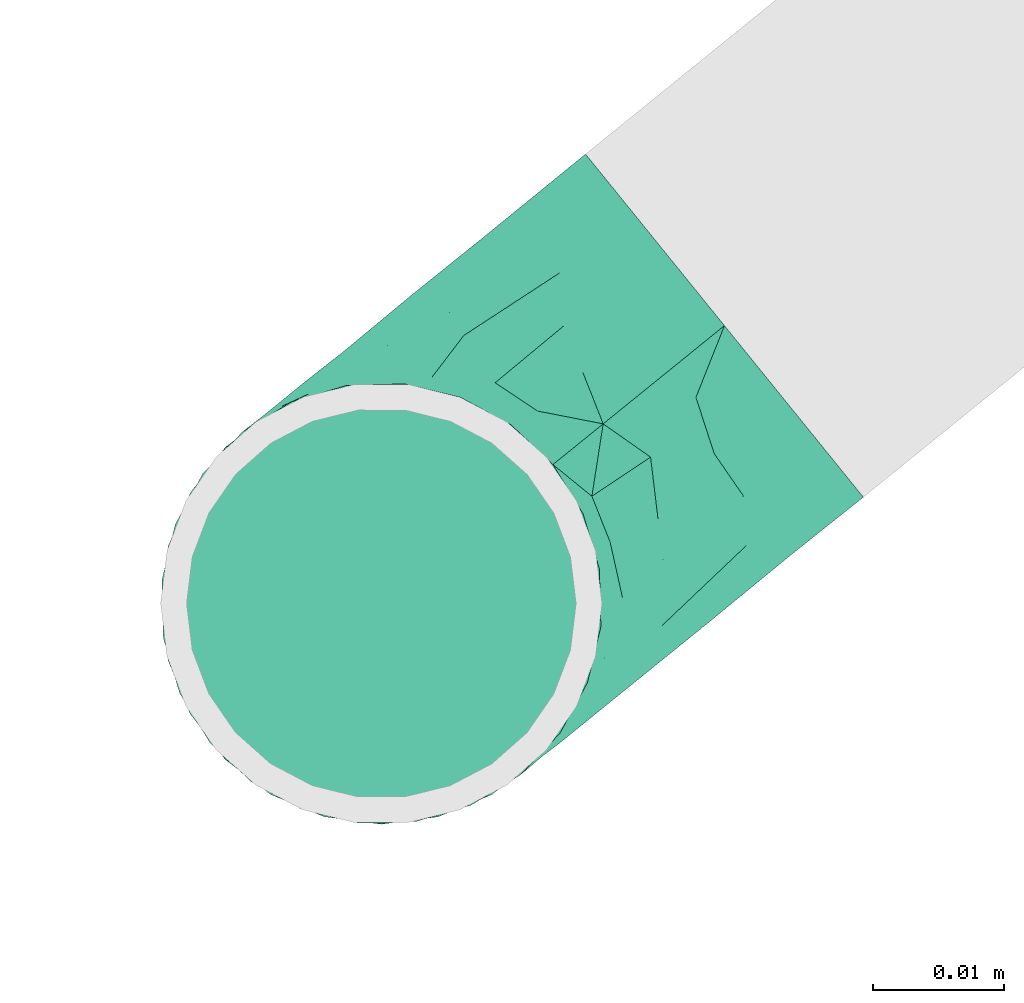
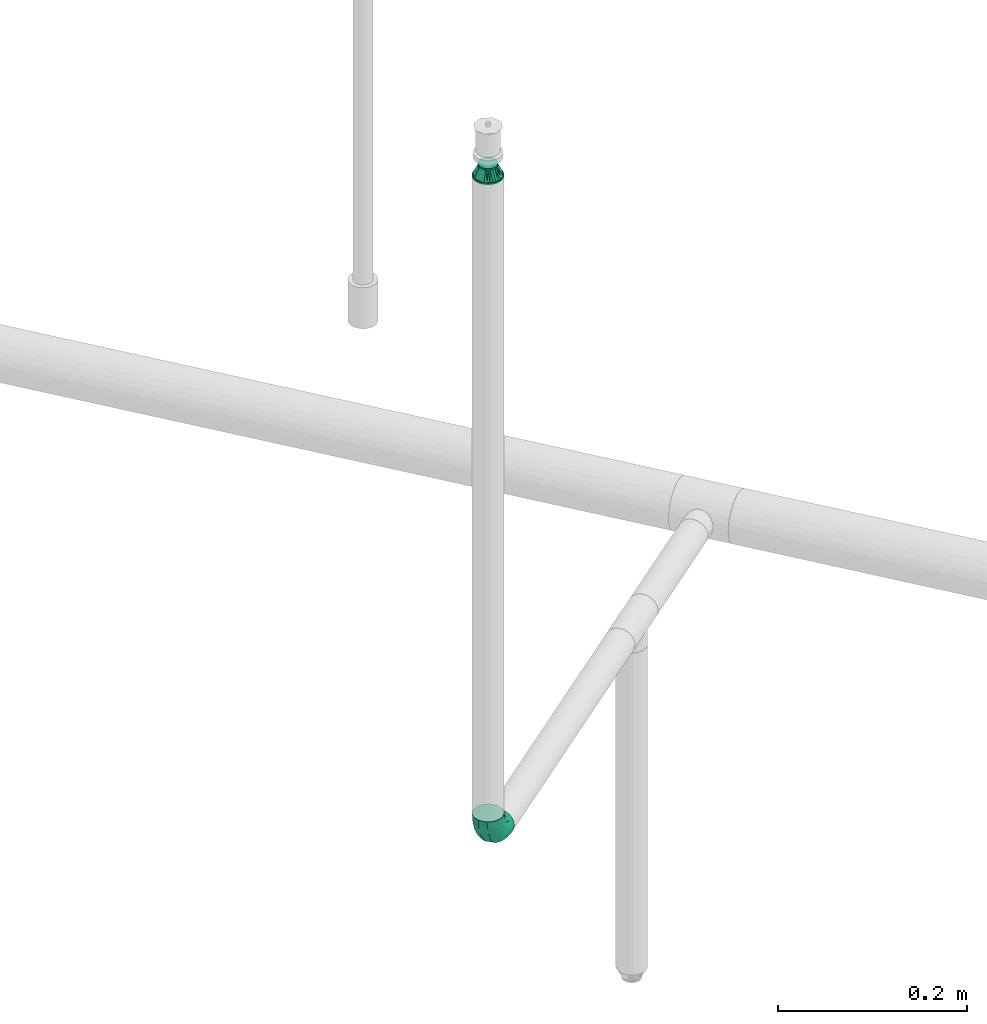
# One storey, part 65 of 94: 2 flow fittings.
"""IFC2X3 building model written with IfcOpenShell, lengths in millimetres."""

from ifc_helpers import new_model, entity, si_unit, converted_unit, derived_unit, direction, frame, origin_with_axes, place, context, subcontext, project, spatial, open_shell, surface_model, source, transform, mapped, type_object, element, save


model = new_model("IFC2X3")

# Units and contexts
model_context = context("Model", 3, precision=0.01, world=frame((0.0, 4.29681676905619e-09, 0.0)), true_north=direction((4.01073788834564e-13, 1.0)))
plan_context = context("Plan", 3, precision=0.01, world=frame((0.0, 4.29681676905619e-09, 0.0)), true_north=direction((4.01073788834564e-13, 1.0)))
body_context = subcontext(model_context, "Body", "Model", "MODEL_VIEW")
ifc_project = project(units=[converted_unit("PLANEANGLEUNIT", "DEGREE", entity("IfcPositiveLengthMeasure", 0.0174532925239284), si_unit("PLANEANGLEUNIT", "RADIAN"), dimensions=[0, 0, 0, 0, 0, 0, 0]), si_unit("AREAUNIT", "SQUARE_METRE"), si_unit("LENGTHUNIT", "METRE", prefix="MILLI"), si_unit("MASSUNIT", "GRAM", prefix="KILO"), si_unit("POWERUNIT", "WATT"), si_unit("PRESSUREUNIT", "PASCAL", prefix="KILO"), si_unit("FORCEUNIT", "NEWTON", prefix="KILO"), si_unit("ELECTRICVOLTAGEUNIT", "VOLT"), si_unit("ELECTRICCURRENTUNIT", "AMPERE"), si_unit("THERMODYNAMICTEMPERATUREUNIT", "DEGREE_CELSIUS"), si_unit("TIMEUNIT", "SECOND"), si_unit("VOLUMEUNIT", "CUBIC_METRE"), derived_unit("LINEARVELOCITYUNIT", [(si_unit("LENGTHUNIT", "METRE"), 1), (si_unit("TIMEUNIT", "SECOND"), -1)]), derived_unit("VOLUMETRICFLOWRATEUNIT", [(si_unit("VOLUMEUNIT", "CUBIC_METRE"), 1), (si_unit("TIMEUNIT", "SECOND"), -1)]), derived_unit("THERMALTRANSMITTANCEUNIT", [(si_unit("POWERUNIT", "WATT"), 1), (si_unit("THERMODYNAMICTEMPERATUREUNIT", "KELVIN"), -1), (si_unit("AREAUNIT", "SQUARE_METRE"), -1)]), derived_unit("SOUNDPRESSUREUNIT", [(si_unit("PRESSUREUNIT", "PASCAL"), 1)])], contexts=[model_context, plan_context])

# Site, building, storey
site_placement = place(None, frame((0.0, -4.29681676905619e-09, 0.0), z_axis=(0.0, 0.0, 1.0), x_axis=(1.0, 0.0, 0.0)))
site = spatial("IfcSite", under=ifc_project, at=site_placement, CompositionType="ELEMENT")
building_placement = place(site_placement, frame((0.0, 4.29681676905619e-09, 0.0), z_axis=(0.0, 0.0, 1.0), x_axis=(1.0, 0.0, 0.0)))
building = spatial("IfcBuilding", under=site, at=building_placement, Name="mc-building", CompositionType="ELEMENT")
storey_placement = place(building_placement, frame((0.0, 0.0, 210900.0), z_axis=(0.0, 0.0, 1.0), x_axis=(1.0, 0.0, 0.0)))
storey = spatial("IfcBuildingStorey", under=building, at=storey_placement, Name="Nivå F", CompositionType="ELEMENT", Elevation=210900.0)

# Flow fittings
pipe_fitting_type_1 = type_object("IfcPipeFittingType", Name="magi_pipe_fe_reducer_centric_short_NOR", PredefinedType="TRANSITION")
shared_shape_1 = source(origin_with_axes(), body_context, "Body", "SurfaceModel", [
    surface_model("IfcShellBasedSurfaceModel", [(14.4, 5.35, -9.26647), (14.4, 0.0, -10.7), (14.4, 2.76936, -10.33541), (14.4, 10.33541, -2.76936), (14.4, 7.56604, -7.56604), (14.4, -10.33541, -2.76936), (14.4, 9.26647, -5.35), (14.4, 0.0, 10.7), (14.4, -5.35, -9.26647), (14.4, -2.76936, -10.33541), (14.4, -7.56604, -7.56604), (14.4, -9.26647, -5.35), (14.4, 10.7, 0.0), (14.4, 10.33541, 2.76936), (14.4, 9.26647, 5.35), (14.4, 7.56604, 7.56604), (14.4, 2.76936, 10.33541), (14.4, 5.35, 9.26647), (14.4, -10.33541, 2.76936), (14.4, -7.56604, 7.56604), (14.4, -9.26647, 5.35), (14.4, -10.7, 0.0), (14.4, -2.76936, 10.33541), (14.4, -5.35, 9.26647), (12.4, 2.76936, 10.33541), (12.4, -10.33541, -2.76936), (12.4, 0.0, 10.7), (12.4, 5.35, 9.26647), (12.4, 7.56604, 7.56604), (12.4, 9.26647, 5.35), (12.4, 10.33541, 2.76936), (12.4, -10.33541, 2.76936), (12.4, -2.76936, 10.33541), (12.4, -7.56604, 7.56604), (12.4, -5.35, 9.26647), (12.4, -9.26647, 5.35), (12.4, -10.7, 0.0), (12.4, 10.33541, -2.76936), (12.4, 5.35, -9.26647), (12.4, 9.26647, -5.35), (12.4, 7.56604, -7.56604), (12.4, 2.76936, -10.33541), (12.4, -9.26647, -5.35), (12.4, -5.35, -9.26647), (12.4, -7.56604, -7.56604), (12.4, 0.0, -10.7), (12.4, -2.76936, -10.33541), (12.4, 10.7, 0.0), (-2.0, 11.9501, 11.9501), (-2.0, 0.0, 16.9), (-2.0, 4.37404, 16.32415), (-2.0, 8.45, 14.63583), (-2.0, 14.63583, 8.45), (-2.0, 16.32415, 4.37404), (-2.0, -16.32415, 4.37404), (-2.0, -8.45, 14.63583), (-2.0, -14.63583, 8.45), (-2.0, -11.9501, 11.9501), (-2.0, -4.37404, 16.32415), (-2.0, -16.32415, -4.37404), (-2.0, -16.9, 0.0), (-2.0, -8.45, -14.63583), (-2.0, 16.32415, -4.37404), (-2.0, 11.9501, -11.9501), (-2.0, 14.63583, -8.45), (-2.0, 8.45, -14.63583), (-2.0, 4.37404, -16.32415), (-2.0, 0.0, -16.9), (-2.0, -11.9501, -11.9501), (-2.0, -14.63583, -8.45), (-2.0, -4.37404, -16.32415), (-2.0, 16.9, 0.0), (0.0, 4.37404, -16.32415), (0.0, 8.45, -14.63583), (0.0, 11.9501, -11.9501), (0.0, 0.0, -16.9), (0.0, 16.32415, -4.37404), (0.0, 16.32415, 4.37404), (0.0, 14.63583, -8.45), (0.0, -8.45, -14.63583), (0.0, -4.37404, -16.32415), (0.0, -11.9501, -11.9501), (0.0, -16.32415, -4.37404), (0.0, -14.63583, -8.45), (0.0, -16.32415, 4.37404), (0.0, 16.9, 0.0), (0.0, 14.63583, 8.45), (0.0, 11.9501, 11.9501), (0.0, 4.37404, 16.32415), (0.0, 8.45, 14.63583), (0.0, 0.0, 16.9), (0.0, -14.63583, 8.45), (0.0, -16.9, 0.0), (0.0, -8.45, 14.63583), (0.0, -11.9501, 11.9501), (0.0, -4.37404, 16.32415), (12.4, 9.3625, -2.31662), (0.0, 14.42505, -5.97505), (0.0, 15.66253, -2.98753), (12.4, -6.6875, -6.94985), (0.0, -13.18758, -8.96258), (0.0, 2.98753, -15.66253), (12.4, 0.0, -9.26647), (12.4, 6.6875, -6.94985), (0.0, 8.96258, -13.18758), (12.4, -9.3625, -2.31662), (0.0, -15.66253, -2.98753), (0.0, -14.42505, -5.97505), (0.0, 5.97505, -14.42505), (0.0, -2.98753, -15.66253), (0.0, -8.96258, -13.18758), (0.0, 13.18758, -8.96258), (12.4, 8.025, -4.63324), (12.4, -2.675, -9.26647), (12.4, 2.675, -9.26647), (0.0, -5.97505, -14.42505), (12.4, -8.025, -4.63324), (12.4, -9.3625, 2.31662), (0.0, -14.42505, 5.97505), (0.0, -15.66253, 2.98753), (12.4, 6.6875, 6.94985), (0.0, 13.18758, 8.96258), (0.0, -2.98753, 15.66253), (12.4, 0.0, 9.26647), (12.4, -6.6875, 6.94985), (0.0, -8.96258, 13.18758), (12.4, 9.3625, 2.31662), (0.0, 15.66253, 2.98753), (0.0, 14.42505, 5.97505), (0.0, -5.97505, 14.42505), (0.0, 2.98753, 15.66253), (0.0, 8.96258, 13.18758), (0.0, -13.18758, 8.96258), (12.4, -8.025, 4.63324), (12.4, 2.675, 9.26647), (12.4, -2.675, 9.26647), (0.0, 5.97505, 14.42505), (12.4, 8.025, 4.63324)], [open_shell([[[0, 1, 2]], [[3, 0, 4]], [[5, 0, 3]], [[3, 4, 6]], [[7, 5, 3]], [[1, 8, 9]], [[1, 0, 8]], [[10, 5, 11]], [[5, 10, 8]], [[0, 5, 8]], [[3, 12, 13]], [[13, 14, 15]], [[13, 15, 16]], [[7, 3, 16]], [[16, 15, 17]], [[7, 18, 5]], [[18, 19, 20]], [[21, 5, 18]], [[19, 22, 23]], [[22, 19, 18]], [[7, 22, 18]], [[13, 16, 3]], [[24, 25, 26]], [[27, 25, 24]], [[28, 29, 30]], [[28, 25, 27]], [[31, 26, 25]], [[32, 33, 34]], [[33, 32, 31]], [[33, 31, 35]], [[32, 26, 31]], [[31, 25, 36]], [[30, 37, 28]], [[25, 28, 37]], [[38, 37, 39]], [[37, 38, 25]], [[38, 39, 40]], [[41, 25, 38]], [[42, 43, 44]], [[43, 42, 25]], [[43, 45, 46]], [[43, 25, 41]], [[41, 45, 43]], [[37, 30, 47]], [[25, 5, 36]], [[42, 11, 25]], [[8, 44, 43]], [[42, 44, 10]], [[9, 43, 46]], [[25, 11, 5]], [[5, 21, 36]], [[9, 8, 43]], [[10, 44, 8]], [[10, 11, 42]], [[1, 9, 46]], [[46, 45, 1]], [[41, 2, 45]], [[38, 0, 41]], [[6, 40, 39]], [[38, 40, 4]], [[3, 39, 37]], [[38, 4, 0]], [[0, 2, 41]], [[12, 3, 37]], [[6, 39, 3]], [[6, 4, 40]], [[47, 12, 37]], [[45, 2, 1]], [[30, 13, 47]], [[29, 14, 30]], [[17, 28, 27]], [[29, 28, 15]], [[16, 27, 24]], [[30, 14, 13]], [[13, 12, 47]], [[16, 17, 27]], [[15, 28, 17]], [[15, 14, 29]], [[7, 16, 24]], [[24, 26, 7]], [[32, 22, 26]], [[34, 23, 32]], [[20, 33, 35]], [[34, 33, 19]], [[18, 35, 31]], [[34, 19, 23]], [[23, 22, 32]], [[21, 18, 31]], [[20, 35, 18]], [[20, 19, 33]], [[36, 21, 31]], [[26, 22, 7]], [[48, 49, 50]], [[48, 50, 51]], [[48, 52, 53]], [[48, 53, 49]], [[49, 53, 54]], [[55, 56, 57]], [[55, 58, 49]], [[56, 55, 49]], [[49, 54, 56]], [[54, 59, 60]], [[54, 53, 61]], [[53, 62, 63]], [[63, 62, 64]], [[63, 65, 66]], [[61, 53, 63]], [[67, 63, 66]], [[59, 68, 69]], [[68, 59, 61]], [[61, 67, 70]], [[59, 54, 61]], [[63, 67, 61]], [[53, 71, 62]], [[72, 73, 74]], [[75, 72, 74]], [[74, 76, 77]], [[76, 74, 78]], [[74, 77, 79]], [[75, 79, 80]], [[75, 74, 79]], [[81, 82, 83]], [[82, 81, 79]], [[79, 84, 82]], [[77, 76, 85]], [[77, 86, 87]], [[77, 87, 88]], [[88, 84, 79]], [[88, 87, 89]], [[84, 88, 90]], [[90, 91, 84]], [[92, 82, 84]], [[91, 93, 94]], [[91, 90, 93]], [[93, 90, 95]], [[79, 77, 88]], [[59, 82, 60]], [[69, 83, 59]], [[79, 68, 61]], [[69, 68, 81]], [[80, 61, 70]], [[59, 83, 82]], [[82, 92, 60]], [[80, 79, 61]], [[81, 68, 79]], [[81, 83, 69]], [[75, 80, 70]], [[70, 67, 75]], [[66, 72, 67]], [[65, 73, 66]], [[78, 63, 64]], [[65, 63, 74]], [[76, 64, 62]], [[65, 74, 73]], [[73, 72, 66]], [[85, 76, 62]], [[78, 64, 76]], [[78, 74, 63]], [[71, 85, 62]], [[67, 72, 75]], [[53, 77, 71]], [[52, 86, 53]], [[89, 48, 51]], [[52, 48, 87]], [[88, 51, 50]], [[53, 86, 77]], [[77, 85, 71]], [[88, 89, 51]], [[87, 48, 89]], [[87, 86, 52]], [[90, 88, 50]], [[50, 49, 90]], [[58, 95, 49]], [[55, 93, 58]], [[91, 57, 56]], [[55, 57, 94]], [[84, 56, 54]], [[55, 94, 93]], [[93, 95, 58]], [[92, 84, 54]], [[91, 56, 84]], [[91, 94, 57]], [[60, 92, 54]], [[49, 95, 90]], [[27, 34, 47]], [[47, 34, 43]], [[43, 38, 47]], [[43, 34, 36]], [[90, 87, 94]], [[92, 94, 87]], [[87, 74, 92]], [[75, 92, 74]], [[81, 92, 75]], [[74, 87, 85]], [[96, 97, 98]], [[81, 99, 100]], [[101, 102, 75]], [[98, 85, 47]], [[74, 103, 104]], [[104, 103, 38]], [[105, 106, 107]], [[38, 108, 104]], [[102, 109, 75]], [[110, 99, 81]], [[47, 96, 98]], [[103, 111, 112]], [[109, 102, 113]], [[36, 92, 106]], [[102, 101, 114]], [[110, 115, 43]], [[96, 112, 97]], [[107, 116, 105]], [[36, 106, 105]], [[113, 115, 109]], [[43, 115, 113]], [[116, 107, 100]], [[108, 38, 114]], [[111, 103, 74]], [[111, 97, 112]], [[99, 110, 43]], [[116, 100, 99]], [[101, 108, 114]], [[117, 118, 119]], [[87, 120, 121]], [[122, 123, 90]], [[119, 92, 36]], [[94, 124, 125]], [[125, 124, 34]], [[126, 127, 128]], [[34, 129, 125]], [[123, 130, 90]], [[131, 120, 87]], [[36, 117, 119]], [[124, 132, 133]], [[130, 123, 134]], [[47, 85, 127]], [[123, 122, 135]], [[131, 136, 27]], [[117, 133, 118]], [[128, 137, 126]], [[47, 127, 126]], [[134, 136, 130]], [[27, 136, 134]], [[137, 128, 121]], [[129, 34, 135]], [[132, 124, 94]], [[132, 118, 133]], [[120, 131, 27]], [[137, 121, 120]], [[122, 129, 135]]])]),
])
flow_fitting_1_placement = place(storey_placement, frame((726497.00357, 441572.61755, 4357.64799999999), z_axis=(-0.000893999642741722, -0.99999960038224, 0.0), x_axis=(0.0, 0.0, 1.0)))
element("IfcFlowFitting", 1, at=flow_fitting_1_placement, inside=storey, type_object=pipe_fitting_type_1, Name="magi_pipe_fe_reducer_centric_short_NOR", context=body_context, shape_type="MappedRepresentation", body=[
    mapped(shared_shape_1, transform((0.0, 0.0, 0.0), scale=1.0)),
])
pipe_fitting_type_2 = type_object("IfcPipeFittingType", Name="magi_pipe_fe_elbow_short_001", PredefinedType="BEND")
shared_shape_2 = source(origin_with_axes(), body_context, "Body", "SurfaceModel", [
    surface_model("IfcShellBasedSurfaceModel", [(-33.8, 8.45, -14.63583), (-33.8, 4.37404, -16.32415), (-33.8, 11.9501, -11.9501), (-33.8, -11.9501, -11.9501), (-33.8, -14.63583, -8.45), (-33.8, -8.45, -14.63583), (-33.8, 0.0, -16.9), (-33.8, -4.37404, -16.32415), (-33.8, -4.37404, 16.32415), (-33.8, 0.0, 16.9), (-33.8, -8.45, 14.63583), (-33.8, 16.32415, -4.37404), (-33.8, 14.63583, -8.45), (-33.8, -16.32415, -4.37404), (-33.8, -16.9, 0.0), (-33.8, -16.32415, 4.37404), (-33.8, 11.9501, 11.9501), (-33.8, 14.63583, 8.45), (-33.8, 16.32415, 4.37404), (-33.8, 4.37404, 16.32415), (-33.8, 8.45, 14.63583), (-33.8, -14.63583, 8.45), (-33.8, -11.9501, 11.9501), (-33.8, 16.9, 0.0), (-11.9501, 33.8, -11.9501), (0.0, 33.8, -16.9), (-4.37404, 33.8, -16.32415), (-8.45, 33.8, -14.63583), (-14.63583, 33.8, -8.45), (-16.32415, 33.8, -4.37404), (14.63583, 33.8, -8.45), (8.45, 33.8, 14.63583), (16.32415, 33.8, -4.37404), (8.45, 33.8, -14.63583), (11.9501, 33.8, -11.9501), (4.37404, 33.8, -16.32415), (16.32415, 33.8, 4.37404), (16.9, 33.8, 0.0), (-11.9501, 33.8, 11.9501), (-16.32415, 33.8, 4.37404), (-14.63583, 33.8, 8.45), (-8.45, 33.8, 14.63583), (-4.37404, 33.8, 16.32415), (11.9501, 33.8, 11.9501), (14.63583, 33.8, 8.45), (0.0, 33.8, 16.9), (4.37404, 33.8, 16.32415), (-16.9, 33.8, 0.0), (-24.79389, -13.12945, 9.48721), (-22.19287, -9.75018, 12.59315), (-24.09897, -14.97035, 0.0), (-14.93934, -10.76256, 8.5297), (-22.46095, -14.75051, 5.27077), (14.75051, 22.46094, 5.27077), (11.9251, 13.23888, 4.33236), (13.04069, 14.39795, 0.0), (7.71387, 13.68847, 11.55891), (9.75018, 22.19287, 12.59315), (4.10169, 13.0571, 14.04018), (-24.84007, -6.39063, 15.2048), (-25.81779, -2.23879, 16.61097), (-23.66549, 2.59054, 16.87119), (-26.50418, 14.06512, 11.08152), (-24.21253, 17.66365, 7.72657), (-29.58514, 15.86957, 7.00283), (-6.17382, -7.5455, 0.0), (-13.23888, -11.9251, 4.33236), (-14.39795, -13.04069, 0.0), (-17.81434, 18.87373, 11.97104), (-6.30846, 29.15138, 15.82987), (-2.31622, 25.28002, 16.85849), (-29.23923, 10.23435, 13.77053), (-1.45439, -2.85688, 7.61475), (-0.28326, 0.34872, 10.09509), (-5.74484, -4.04709, 10.4122), (-4.41137, 11.31918, 16.59407), (-8.39727, 3.10034, 15.7812), (-1.72649, 9.1306, 15.53089), (-17.39909, 24.75344, 7.64977), (-26.19233, 20.0512, 0.0), (-28.14518, 17.29657, 4.25857), (-26.05147, 6.6281, 15.96447), (-5.87354, 16.61944, 16.86968), (-12.51807, 12.51807, 16.48937), (-10.06312, 7.38516, 16.81295), (-3.01882, 3.01882, 13.81718), (-13.0571, -4.10169, 14.04018), (-16.82553, -0.15166, 16.38038), (10.76256, 14.93934, 8.5297), (13.12945, 24.79389, 9.48721), (6.39063, 24.84007, 15.2048), (2.23879, 25.81779, 16.61097), (-13.68847, -7.71387, 11.55891), (14.97035, 24.09897, 0.0), (-7.30894, 22.89991, 16.09489), (-10.67958, 26.17414, 14.008), (-12.78295, 18.26924, 15.06066), (-13.88562, 22.45231, 12.93244), (-18.04944, 15.16501, 14.04434), (-23.11658, 20.08178, 4.02986), (-21.84989, 21.84989, 0.0), (-18.55817, 25.48277, 3.93065), (-13.95142, 26.94732, 11.03289), (-18.57098, 7.23906, 16.59756), (-16.58335, 4.14122, 16.89279), (-17.96666, 11.46709, 15.63151), (-9.84453, 17.54304, 16.18938), (0.15166, 16.82553, 16.38038), (-23.27207, 11.47201, 14.23154), (3.84842, 5.86994, 10.70473), (-8.0212, -7.54413, 7.93275), (1.00345, -2.19508, 4.57414), (5.13203, 3.01004, 5.90201), (5.24161, 1.7543, 2.53265), (8.70457, 7.04947, 3.99182), (-20.0512, 26.19233, 0.0), (8.4852, 8.76699, 7.09296), (-4.55488, -6.72064, 4.90681), (2.05031, -2.05031, 0.0), (7.5455, 6.17382, 0.0), (-26.75399, 2.1369, -16.845), (-14.61995, 24.73803, -11.27736), (-28.45274, -13.45335, -9.81895), (-26.00469, 6.63555, -15.96645), (-23.06726, 20.04573, -4.26202), (-13.80647, -4.26506, -14.17873), (-14.67501, -0.21081, -16.07388), (-6.7902, -0.2828, -13.8478), (-24.53586, 11.08096, -14.13417), (-26.72048, 14.00837, -11.05776), (10.0967, 24.44989, -12.75976), (5.83237, 21.40218, -15.03047), (6.66249, 28.54238, -15.38093), (-20.38182, 15.48705, -12.74596), (12.53268, 21.23441, -9.15363), (12.54494, 15.67504, -5.54878), (9.7522, 12.89279, -8.66343), (-15.65186, 19.64213, -13.01327), (-12.03528, 20.66498, -14.67665), (-15.61907, 15.61906, -14.83879), (-25.56551, -15.26206, 0.0), (-24.65452, -15.12934, -5.50955), (13.45335, 28.45274, -9.81895), (15.12934, 24.65452, -5.50955), (-7.35442, -8.31014, -5.65563), (-15.67504, -12.54494, -5.54878), (-24.44989, -10.0967, -12.75976), (0.16522, 0.41303, -9.71728), (-5.70658, -5.33066, -8.89288), (-5.13869, -2.37198, -11.53565), (-21.23441, -12.53268, -9.15363), (0.71146, 7.93863, -14.09382), (0.21081, 14.67501, -16.07388), (3.49291, 14.42772, -14.76381), (-24.89911, -2.13088, -16.591), (-28.54238, -6.66249, -15.38093), (-18.44386, -7.71663, -13.26957), (2.13088, 24.89911, -16.591), (-28.64342, 17.44413, -2.89318), (1.70017, -1.28722, -5.09504), (-16.57067, 26.81947, -7.36596), (-17.69055, 27.4263, -3.76405), (-12.89279, -9.7522, -8.66343), (-5.96611, 5.96611, -15.95814), (-20.53709, 20.09345, -8.28985), (-2.1369, 26.75399, -16.845), (-6.89872, 24.58781, -16.02578), (-10.60739, 26.53157, -13.98044), (-21.40218, -5.83237, -15.03047), (2.93192, 5.89627, -11.55917), (6.89393, 12.61842, -11.82233), (5.58056, 5.95325, -8.79455), (-3.99512, 18.61798, -16.89635), (8.31014, 7.35442, -5.65563), (-9.1383, 9.86148, -16.89041), (-9.99983, 16.02119, -16.39699), (-16.68576, 9.78031, -16.34199), (-27.01915, 16.61158, -7.12979), (15.26206, 25.56551, 0.0), (-18.61798, 3.99512, -16.89635), (-19.37495, 27.82495, 0.0), (-12.61842, -6.89393, -11.82233), (-18.84705, 19.14018, -10.96545)], [open_shell([[[0, 1, 2]], [[3, 4, 5]], [[6, 7, 5]], [[8, 9, 10]], [[1, 6, 2]], [[11, 12, 2]], [[4, 2, 6]], [[2, 13, 10]], [[5, 4, 6]], [[2, 4, 13]], [[14, 15, 13]], [[11, 2, 16]], [[11, 17, 18]], [[11, 16, 17]], [[19, 20, 16]], [[16, 2, 10]], [[19, 16, 10]], [[21, 22, 15]], [[22, 13, 15]], [[22, 10, 13]], [[10, 9, 19]], [[11, 18, 23]], [[24, 25, 26]], [[24, 26, 27]], [[24, 28, 29]], [[25, 24, 30]], [[31, 32, 24]], [[33, 30, 34]], [[33, 35, 25]], [[25, 30, 33]], [[32, 30, 24]], [[32, 36, 37]], [[38, 24, 29]], [[39, 40, 29]], [[40, 38, 29]], [[38, 41, 42]], [[38, 31, 24]], [[31, 38, 42]], [[36, 43, 44]], [[36, 32, 43]], [[31, 45, 46]], [[32, 31, 43]], [[42, 45, 31]], [[39, 29, 47]], [[22, 48, 49]], [[15, 14, 50]], [[51, 48, 52]], [[53, 54, 55]], [[48, 22, 21]], [[15, 52, 21]], [[56, 57, 58]], [[49, 10, 22]], [[49, 59, 10]], [[9, 60, 61]], [[62, 63, 64]], [[65, 66, 67]], [[57, 43, 31]], [[62, 68, 63]], [[42, 69, 70]], [[20, 71, 16]], [[8, 60, 9]], [[72, 73, 74]], [[75, 76, 77]], [[16, 62, 17]], [[40, 39, 78]], [[79, 23, 80]], [[64, 18, 17]], [[9, 61, 19]], [[19, 81, 20]], [[82, 83, 84]], [[74, 85, 86]], [[59, 86, 87]], [[88, 89, 57]], [[90, 31, 46]], [[44, 53, 36]], [[46, 45, 91]], [[54, 53, 88]], [[44, 89, 53]], [[92, 86, 49]], [[89, 44, 43]], [[10, 59, 8]], [[53, 55, 93]], [[93, 36, 53]], [[66, 52, 67]], [[94, 82, 70]], [[95, 96, 94]], [[97, 98, 96]], [[79, 99, 100]], [[41, 38, 95]], [[101, 100, 99]], [[68, 78, 63]], [[42, 41, 69]], [[23, 18, 80]], [[95, 94, 69]], [[78, 101, 99]], [[38, 102, 95]], [[70, 45, 42]], [[97, 95, 102]], [[15, 50, 52]], [[90, 57, 31]], [[57, 90, 58]], [[81, 19, 61]], [[103, 104, 84]], [[105, 81, 103]], [[38, 40, 102]], [[106, 96, 83]], [[94, 106, 82]], [[91, 70, 107]], [[71, 62, 16]], [[62, 108, 98]], [[86, 59, 49]], [[67, 52, 50]], [[60, 59, 87]], [[92, 49, 51]], [[86, 85, 76]], [[91, 90, 46]], [[37, 36, 93]], [[107, 77, 58]], [[107, 58, 90]], [[58, 85, 109]], [[110, 74, 92]], [[72, 74, 110]], [[66, 51, 52]], [[72, 111, 112]], [[113, 114, 112]], [[56, 88, 57]], [[52, 48, 21]], [[49, 48, 51]], [[57, 89, 43]], [[53, 89, 88]], [[103, 81, 61]], [[71, 81, 108]], [[18, 64, 80]], [[63, 78, 99]], [[47, 115, 101]], [[101, 115, 100]], [[40, 78, 102]], [[68, 102, 78]], [[97, 96, 95]], [[105, 98, 108]], [[103, 84, 83]], [[107, 70, 82]], [[76, 84, 87]], [[82, 84, 75]], [[70, 91, 45]], [[90, 91, 107]], [[59, 60, 8]], [[61, 60, 87]], [[73, 85, 74]], [[109, 112, 116]], [[103, 61, 104]], [[105, 103, 83]], [[96, 105, 83]], [[81, 105, 108]], [[96, 98, 105]], [[62, 98, 68]], [[61, 87, 104]], [[87, 84, 104]], [[86, 76, 87]], [[77, 76, 85]], [[58, 77, 85]], [[75, 77, 107]], [[82, 75, 107]], [[76, 75, 84]], [[81, 71, 20]], [[62, 71, 108]], [[95, 69, 41]], [[70, 69, 94]], [[62, 64, 17]], [[80, 63, 99]], [[63, 80, 64]], [[80, 99, 79]], [[66, 65, 117]], [[110, 66, 117]], [[112, 114, 116]], [[118, 117, 65]], [[110, 92, 51]], [[112, 111, 113]], [[119, 55, 54]], [[74, 86, 92]], [[58, 109, 56]], [[116, 56, 109]], [[66, 110, 51]], [[72, 110, 117]], [[111, 72, 117]], [[73, 112, 109]], [[117, 118, 111]], [[113, 111, 118]], [[118, 119, 113]], [[114, 119, 54]], [[119, 114, 113]], [[116, 54, 88]], [[54, 116, 114]], [[116, 88, 56]], [[112, 73, 72]], [[85, 73, 109]], [[78, 39, 101]], [[47, 101, 39]], [[102, 68, 97]], [[97, 68, 98]], [[82, 106, 83]], [[94, 96, 106]], [[1, 120, 6]], [[28, 24, 121]], [[3, 122, 4]], [[0, 123, 1]], [[100, 124, 79]], [[125, 126, 127]], [[128, 2, 129]], [[130, 131, 132]], [[128, 129, 133]], [[134, 135, 136]], [[137, 138, 139]], [[128, 0, 2]], [[67, 140, 141]], [[134, 142, 143]], [[141, 13, 4]], [[144, 65, 145]], [[146, 3, 5]], [[147, 148, 149]], [[145, 141, 150]], [[151, 152, 153]], [[154, 7, 6]], [[5, 155, 146]], [[150, 146, 156]], [[155, 5, 7]], [[143, 135, 134]], [[35, 157, 25]], [[23, 79, 158]], [[148, 159, 144]], [[160, 161, 29]], [[145, 162, 144]], [[163, 152, 151]], [[29, 28, 160]], [[121, 164, 160]], [[33, 34, 130]], [[25, 165, 26]], [[26, 165, 166]], [[142, 34, 30]], [[24, 27, 167]], [[124, 161, 164]], [[157, 35, 132]], [[155, 154, 168]], [[123, 0, 128]], [[169, 170, 171]], [[172, 157, 152]], [[26, 166, 27]], [[132, 35, 33]], [[142, 130, 34]], [[168, 154, 126]], [[136, 135, 173]], [[133, 137, 139]], [[2, 12, 129]], [[170, 131, 130]], [[30, 32, 143]], [[172, 174, 175]], [[176, 123, 128]], [[158, 177, 11]], [[135, 55, 119]], [[167, 27, 166]], [[175, 166, 172]], [[137, 167, 138]], [[122, 141, 4]], [[140, 14, 13]], [[32, 37, 178]], [[170, 130, 134]], [[152, 157, 131]], [[165, 157, 172]], [[153, 170, 151]], [[152, 163, 174]], [[168, 125, 156]], [[122, 146, 150]], [[120, 154, 6]], [[179, 174, 126]], [[179, 126, 154]], [[126, 163, 127]], [[162, 145, 150]], [[140, 13, 141]], [[32, 178, 143]], [[55, 143, 178]], [[177, 129, 12]], [[128, 133, 139]], [[176, 128, 139]], [[120, 123, 179]], [[121, 160, 28]], [[161, 100, 180]], [[166, 175, 138]], [[121, 24, 167]], [[161, 47, 29]], [[79, 124, 158]], [[124, 164, 177]], [[161, 124, 100]], [[136, 171, 170]], [[127, 163, 151]], [[147, 171, 159]], [[148, 144, 162]], [[127, 151, 169]], [[127, 181, 125]], [[129, 177, 164]], [[12, 11, 177]], [[159, 65, 144]], [[67, 141, 145]], [[143, 55, 135]], [[135, 119, 173]], [[123, 120, 1]], [[154, 120, 179]], [[157, 165, 25]], [[166, 165, 172]], [[172, 152, 174]], [[176, 139, 175]], [[126, 174, 163]], [[176, 174, 179]], [[174, 176, 175]], [[123, 176, 179]], [[150, 181, 162]], [[127, 149, 181]], [[181, 148, 162]], [[159, 148, 147]], [[171, 136, 173]], [[170, 134, 136]], [[159, 171, 173]], [[171, 147, 169]], [[169, 147, 149]], [[151, 170, 169]], [[164, 182, 129]], [[182, 121, 137]], [[181, 149, 148]], [[169, 149, 127]], [[182, 137, 133]], [[167, 137, 121]], [[166, 138, 167]], [[175, 139, 138]], [[129, 182, 133]], [[121, 182, 164]], [[161, 160, 164]], [[47, 161, 180]], [[177, 158, 124]], [[23, 158, 11]], [[130, 132, 33]], [[157, 132, 131]], [[143, 142, 30]], [[130, 142, 134]], [[154, 155, 7]], [[146, 155, 168]], [[146, 122, 3]], [[141, 122, 150]], [[152, 131, 153]], [[159, 119, 118]], [[67, 145, 65]], [[170, 153, 131]], [[119, 159, 173]], [[159, 118, 65]], [[156, 125, 181]], [[126, 125, 168]], [[150, 156, 181]], [[168, 156, 146]]])]),
])
flow_fitting_2_placement = place(storey_placement, frame((726497.00357, 441572.61755, 3500.0), z_axis=(-0.629320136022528, 0.777146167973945, 0.0), x_axis=(-0.777146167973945, -0.629320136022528, 0.0)))
element("IfcFlowFitting", 2, at=flow_fitting_2_placement, inside=storey, type_object=pipe_fitting_type_2, Name="magi_pipe_fe_elbow_short_001", context=body_context, shape_type="MappedRepresentation", body=[
    mapped(shared_shape_2, transform((0.0, 0.0, 0.0), scale=1.0)),
])

save(model, "model.ifc")
